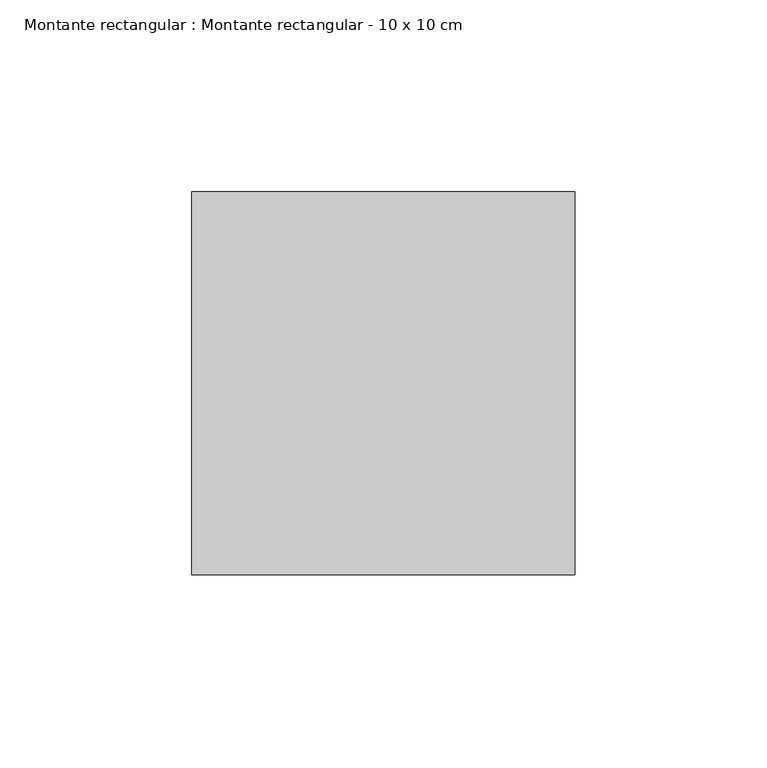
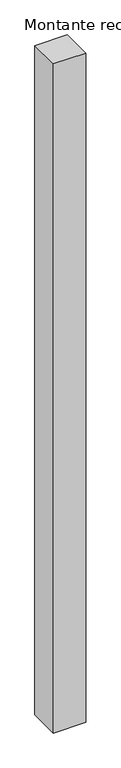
"""IFC4 building model written with IfcOpenShell, lengths in millimetres: member geometry, Montante rectangular : Montante rectangular - 10 x 10 cm."""

from ifc_helpers import new_model, si_unit, frame, origin, place, context, project, spatial, polyline, outline, extrude, source, transform, mapped, element, save


def montante_rectangular_montante_rectangular_10_x_10_cm_65987443(model_context):
    return source(origin(), model_context, "Body", "SweptSolid", [
        extrude(outline(polyline([(-100.0, 50.0), (0.0, 50.0), (0.0, -50.0), (-100.0, -50.0), (-100.0, 50.0)])), frame((0.0, 0.0, -2200.0), z_axis=(0.0, 0.0, 1.0), x_axis=(1.0, 0.0, 0.0)), (0.0, 0.0, 1.0), 2200.0),
    ])


if __name__ == "__main__":
    model = new_model("IFC4")
    model_context = context("Model", 3, world=origin())
    ifc_project = project(units=[si_unit("LENGTHUNIT", "METRE", prefix="MILLI")], contexts=[model_context])
    site = spatial("IfcSite", under=ifc_project)
    building = spatial("IfcBuilding", under=site)
    placement = place(None, origin())
    montante_rectangular_montante_rectangular_10_x_10_cm_shape = montante_rectangular_montante_rectangular_10_x_10_cm_65987443(model_context)
    element("IfcMember", 1, ObjectType="Montante rectangular : Montante rectangular - 10 x 10 cm", at=placement, inside=building, context=model_context, shape_type="MappedRepresentation", body=[
        mapped(montante_rectangular_montante_rectangular_10_x_10_cm_shape, transform((0.0, 0.0, 0.0), x_axis=(1.0, 0.0, 0.0), y_axis=(0.0, 1.0, 0.0), z_axis=(0.0, 0.0, 1.0))),
    ])
    save(model, "model.ifc")
